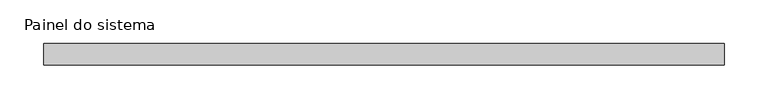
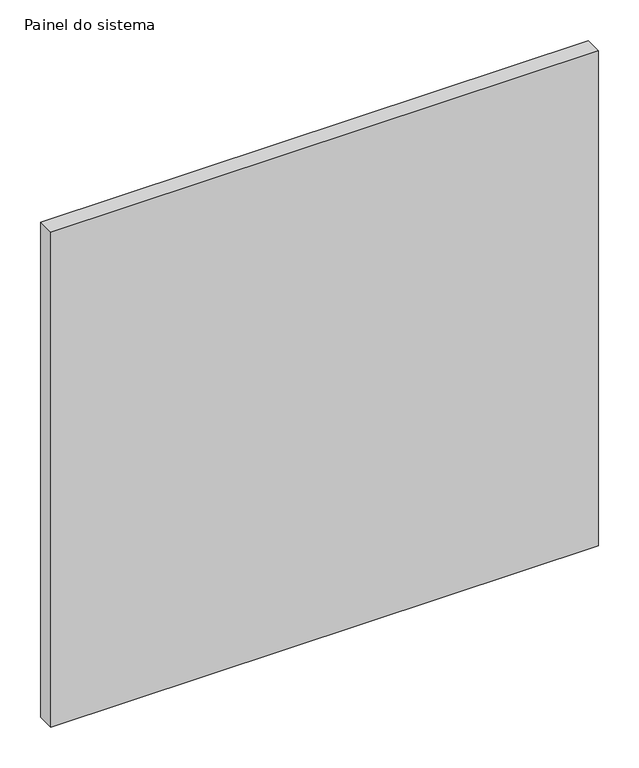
"""IFC4 building model written with IfcOpenShell, lengths in millimetres: plate geometry, Painel do sistema : Envidraçado."""

from ifc_helpers import new_model, si_unit, origin, origin_with_axes, place, context, project, spatial, polyline, outline, extrude, source, transform, mapped, element, save


def painel_do_sistema_72b4784d(model_context):
    return source(origin(), model_context, "Body", "SweptSolid", [
        extrude(outline(polyline([(390.0, 24.5), (-390.0, 24.5), (-390.0, 49.5), (390.0, 49.5), (390.0, 24.5)])), origin_with_axes(), (0.0, 0.0, 1.0), 745.0),
    ])


if __name__ == "__main__":
    model = new_model("IFC4")
    model_context = context("Model", 3, world=origin())
    ifc_project = project(units=[si_unit("LENGTHUNIT", "METRE", prefix="MILLI")], contexts=[model_context])
    site = spatial("IfcSite", under=ifc_project)
    building = spatial("IfcBuilding", under=site)
    placement = place(None, origin())
    painel_do_sistema_shape = painel_do_sistema_72b4784d(model_context)
    element("IfcPlate", 1, ObjectType="Painel do sistema : Envidraçado", at=placement, inside=building, context=model_context, shape_type="MappedRepresentation", body=[
        mapped(painel_do_sistema_shape, transform((0.0, 0.0, 0.0), x_axis=(1.0, 0.0, 0.0), y_axis=(0.0, 1.0, 0.0), z_axis=(0.0, 0.0, 1.0))),
    ])
    save(model, "model.ifc")
